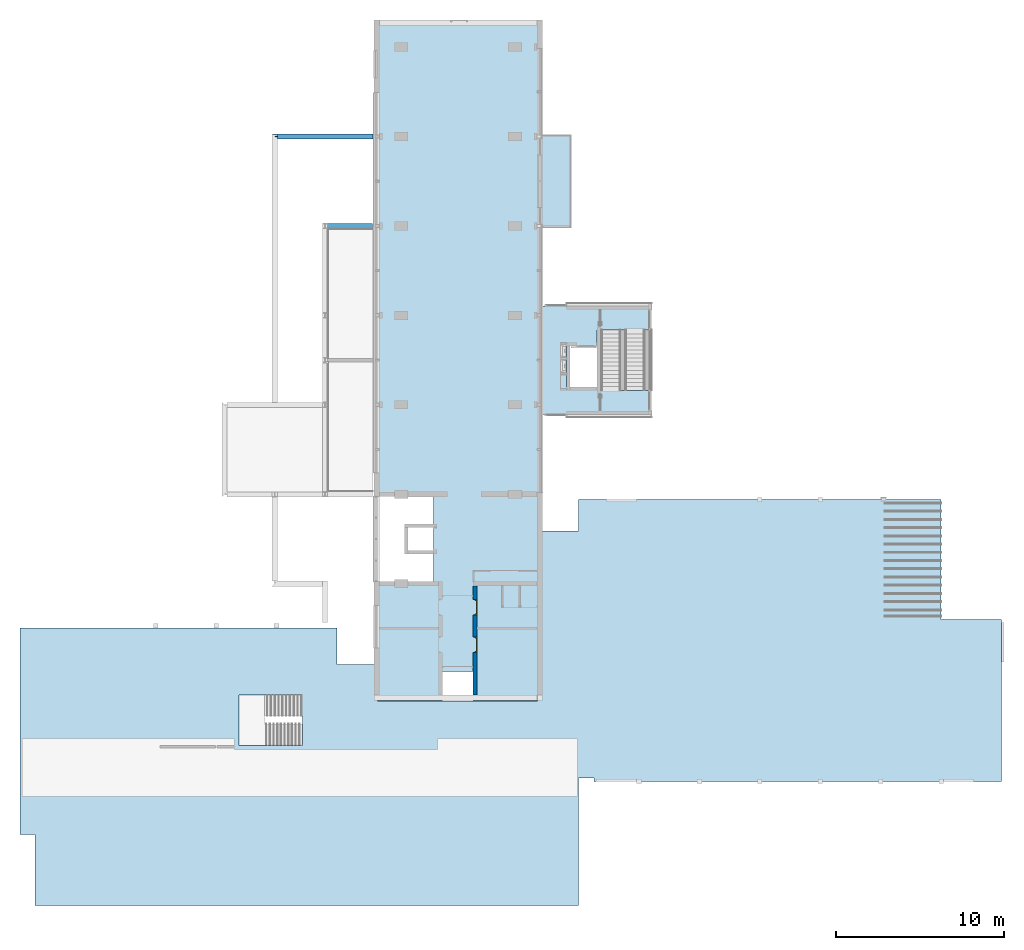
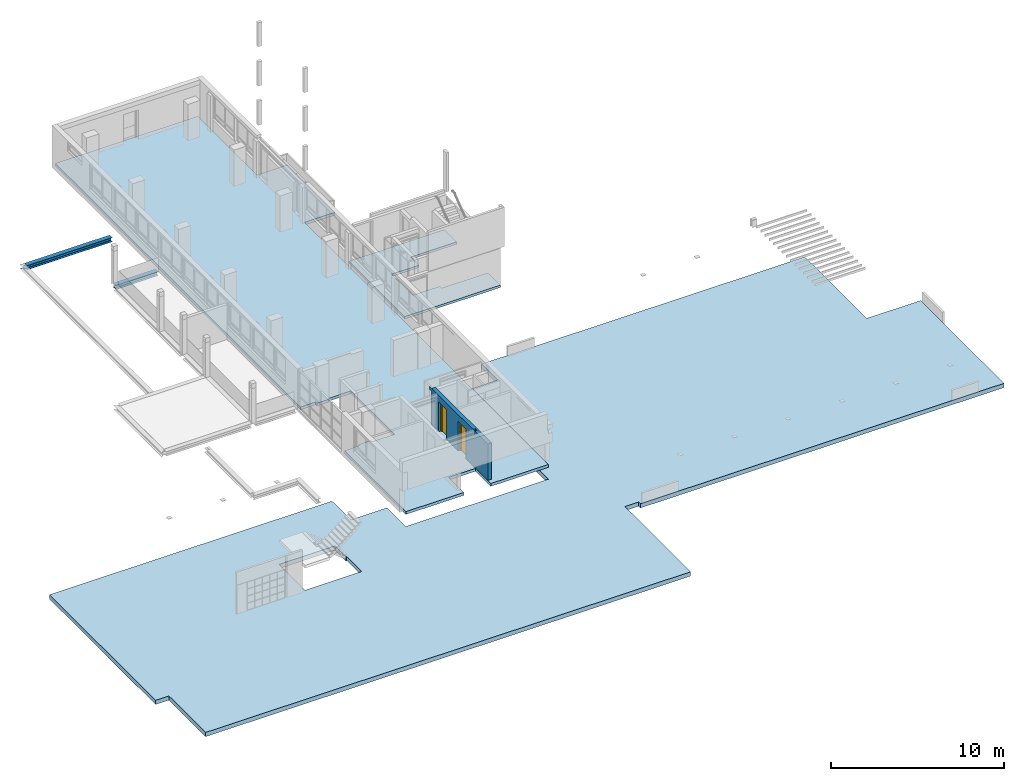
# One storey, part 8 of 22: 3 slabs, 2 beams, 2 doors, 1 wall, 2 openings.
"""IFC2X3 building model written with IfcOpenShell, lengths in millimetres."""

import ifcopenshell
import ifcopenshell.guid

model = None  # the IFC model being written
_history = None  # IfcOwnerHistory: only IFC2X3 demands one
_inside = {}  # id of a spatial element -> (the spatial element, [elements in it])
_under = {}  # id of a project, library or spatial element -> (it, [spatial elements below it])
_declared = {}  # id of a project -> (the project, [libraries it declares])
_typed = {}  # id of a type object -> (the type object, [elements of that type])
_made_of = {}  # id of a material, layer set ... -> (it, [elements and type objects made of it])


def new_model(schema):
    """Start an empty IFC model of exactly this schema.

    Asked for "IFC4X3", IfcOpenShell would pick the latest addendum, in which some entities
    have other attributes; the version numbers below select the first issue.
    IFC2X3 requires an IfcOwnerHistory on every rooted entity: one is made here for all.
    """
    global model, _history
    if schema == "IFC4X3":
        model = ifcopenshell.file(schema_version=(4, 3, 0, 0))
    else:
        model = ifcopenshell.file(schema=schema)
    _inside.clear()
    _under.clear()
    _declared.clear()
    _typed.clear()
    _made_of.clear()
    _history = None
    if model.schema == "IFC2X3":
        org = make("IfcOrganization", Name="unknown")
        user = make(
            "IfcPersonAndOrganization",
            ThePerson=make("IfcPerson", FamilyName="unknown"),
            TheOrganization=org,
        )
        app = make(
            "IfcApplication",
            ApplicationDeveloper=org,
            Version="unknown",
            ApplicationFullName="unknown",
            ApplicationIdentifier="unknown",
        )
        _history = make(
            "IfcOwnerHistory",
            OwningUser=user,
            OwningApplication=app,
            ChangeAction="ADDED",
            CreationDate=0,
        )
    return model


def make(cls, **values):
    """One entity of the class cls with the attributes given. An attribute that is None is left unset."""
    return model.create_entity(
        cls, **{name: value for name, value in values.items() if value is not None}
    )


def entity(cls, *values):
    """Any entity or typed value of the class cls, its attributes in the order of the schema. None: left unset."""
    e = model.create_entity(cls)
    for i, value in enumerate(values):
        if value is not None:
            e[i] = value
    return e


def rooted(cls, **values):
    """An entity with a GlobalId (a new one), such as an element, a storey or a relation."""
    return make(cls, GlobalId=ifcopenshell.guid.new(), OwnerHistory=_history, **values)


def si_unit(unit_type, name, prefix=None):
    """IfcSIUnit, for example si_unit("LENGTHUNIT", "METRE", prefix="MILLI")."""
    return make("IfcSIUnit", UnitType=unit_type, Prefix=prefix, Name=name)


def converted_unit(unit_type, name, factor, base, dimensions=None, offset=None):
    """IfcConversionBasedUnit, such as the inch: factor (a typed value) times the base unit."""
    return make(
        "IfcConversionBasedUnit"
        if offset is None
        else "IfcConversionBasedUnitWithOffset",
        ConversionOffset=offset,
        Dimensions=None
        if dimensions is None
        else entity("IfcDimensionalExponents", *dimensions),
        UnitType=unit_type,
        Name=name,
        ConversionFactor=make(
            "IfcMeasureWithUnit", ValueComponent=factor, UnitComponent=base
        ),
    )


def derived_unit(unit_type, elements):
    """IfcDerivedUnit: a product of units, each with its exponent."""
    return make(
        "IfcDerivedUnit",
        Elements=[
            make("IfcDerivedUnitElement", Unit=unit, Exponent=power)
            for unit, power in elements
        ],
        UnitType=unit_type,
    )


def money_unit(currency):
    """IfcMonetaryUnit."""
    return make("IfcMonetaryUnit", Currency=currency)


def assignment(units):
    """IfcUnitAssignment: the units of a project."""
    return None if units is None else make("IfcUnitAssignment", Units=units)


def point(xyz):
    """IfcCartesianPoint."""
    return None if xyz is None else make("IfcCartesianPoint", Coordinates=xyz)


def direction(xyz):
    """IfcDirection."""
    return None if xyz is None else make("IfcDirection", DirectionRatios=xyz)


def frame(location, z_axis=None, x_axis=None):
    """IfcAxis2Placement3D, a coordinate frame: its origin and axes. An axis left out is left unset."""
    return make(
        "IfcAxis2Placement3D",
        Location=point(location),
        Axis=direction(z_axis),
        RefDirection=direction(x_axis),
    )


def origin_with_axes():
    """The frame at (0, 0, 0) with the z axis (0, 0, 1) and the x axis (1, 0, 0) written out."""
    return frame((0.0, 0.0, 0.0), z_axis=(0.0, 0.0, 1.0), x_axis=(1.0, 0.0, 0.0))


def place(relative_to, where):
    """IfcLocalPlacement: puts the frame where relative to a parent placement (None: the world)."""
    return make(
        "IfcLocalPlacement", PlacementRelTo=relative_to, RelativePlacement=where
    )


def context(
    kind, dimensions, precision=None, world=None, true_north=None, identifier=None
):
    """IfcGeometricRepresentationContext, for example the 3D "Model" context."""
    return make(
        "IfcGeometricRepresentationContext",
        ContextIdentifier=identifier,
        ContextType=kind,
        CoordinateSpaceDimension=dimensions,
        Precision=precision,
        WorldCoordinateSystem=world,
        TrueNorth=true_north,
    )


def subcontext(parent, identifier, kind, view, scale=None):
    """IfcGeometricRepresentationSubContext, for example "Body" below "Model"."""
    return make(
        "IfcGeometricRepresentationSubContext",
        ContextIdentifier=identifier,
        ContextType=kind,
        ParentContext=parent,
        TargetScale=scale,
        TargetView=view,
    )


def project(units=None, contexts=None):
    """IfcProject with its units and contexts."""
    return rooted(
        "IfcProject",
        Name="project",
        RepresentationContexts=contexts,
        UnitsInContext=assignment(units),
    )


def spatial(cls, under=None, at=None, **own):
    """A site, building, storey or space (cls), placed at a placement, below another one or the project."""
    s = rooted(cls, ObjectPlacement=at, **own)
    if under is not None:
        _under.setdefault(under.id(), (under, []))[1].append(s)
    return s


def faces_of(points, faces, orient=None, outer=None):
    """IfcFace entities. A face is a list of loops; a loop is a list of indices into points, from 0.

    orient and outer hold one flag for each loop. By default every Orientation is true, the
    first loop of a face is its IfcFaceOuterBound and the others are IfcFaceBound.
    """
    made = []
    for i, loops in enumerate(faces):
        bounds = []
        for j, loop in enumerate(loops):
            is_outer = j == 0 if outer is None else outer[i][j]
            bounds.append(
                make(
                    "IfcFaceOuterBound" if is_outer else "IfcFaceBound",
                    Bound=make("IfcPolyLoop", Polygon=[points[k] for k in loop]),
                    Orientation=True if orient is None else orient[i][j],
                )
            )
        made.append(make("IfcFace", Bounds=bounds))
    return made


def faceted_brep(points, faces, orient=None, outer=None, voids=None):
    """IfcFacetedBrep: a solid bounded by flat faces; with voids (closed shells), ...WithVoids."""
    shared = [point(p) for p in points]
    hull = make("IfcClosedShell", CfsFaces=faces_of(shared, faces, orient, outer))
    if voids is None:
        return make("IfcFacetedBrep", Outer=hull)
    return make(
        "IfcFacetedBrepWithVoids",
        Outer=hull,
        Voids=[
            make(cls, CfsFaces=faces_of(shared, fs, o, b)) for cls, fs, o, b in voids
        ],
    )


def shape(context_of_items, identifier, shape_type, items):
    """IfcShapeRepresentation: the items that make up one representation, for example the "Body"."""
    return make(
        "IfcShapeRepresentation",
        ContextOfItems=context_of_items,
        RepresentationIdentifier=identifier,
        RepresentationType=shape_type,
        Items=items,
    )


def source(mapping_origin, context_of_items, identifier, shape_type, items):
    """IfcRepresentationMap: a shape defined once, which mapped items show again and again."""
    return make(
        "IfcRepresentationMap",
        MappingOrigin=mapping_origin,
        MappedRepresentation=shape(context_of_items, identifier, shape_type, items),
    )


def transform(
    local_origin,
    x_axis=None,
    y_axis=None,
    z_axis=None,
    scale=None,
    scale2=None,
    scale3=None,
    uniform=True,
):
    """IfcCartesianTransformationOperator3D, or its non-uniform kind. x_axis, y_axis, z_axis: its Axis1, 2, 3."""
    if uniform:
        return make(
            "IfcCartesianTransformationOperator3D",
            Axis1=direction(x_axis),
            Axis2=direction(y_axis),
            LocalOrigin=point(local_origin),
            Scale=scale,
            Axis3=direction(z_axis),
        )
    return make(
        "IfcCartesianTransformationOperator3DnonUniform",
        Axis1=direction(x_axis),
        Axis2=direction(y_axis),
        LocalOrigin=point(local_origin),
        Scale=scale,
        Axis3=direction(z_axis),
        Scale2=scale2,
        Scale3=scale3,
    )


def mapped(mapping_source, mapping_target):
    """IfcMappedItem: shows the shape of a source again, moved by a transform."""
    return make(
        "IfcMappedItem", MappingSource=mapping_source, MappingTarget=mapping_target
    )


def material(Name=None, Category=None):
    """IfcMaterial."""
    return make("IfcMaterial", Name=Name, Category=Category)


def made_of(thing, what):
    """Note that an element or type object is made of a material, layer set ...; save() writes the relation."""
    if what is not None:
        _made_of.setdefault(what.id(), (what, []))[1].append(thing)
    return thing


def type_object(cls, material=None, **own):
    """A type object (cls), such as IfcWallType, which elements share."""
    return made_of(rooted(cls, **own), material)


def type_shapes(of_type, sources):
    """Give a type object the sources (RepresentationMaps) that its elements show as mapped items."""
    of_type.RepresentationMaps = sources


def element(
    cls,
    number,
    at=None,
    inside=None,
    cuts=None,
    type_object=None,
    material=None,
    context=None,
    identifier="Body",
    shape_type=None,
    held_by="IfcProductDefinitionShape",
    body=None,
    shapes=None,
    **own,
):
    """One element of the class cls, such as IfcWall. Its Tag is "e" and its number.

    at: its placement. inside: the storey or other place that contains it. cuts: it is an
    opening in that element (IfcRelVoidsElement). A single representation is given by context,
    identifier, shape_type and body (its items); several are given by shapes. held_by: the class
    of the entity that holds the representations. save() writes the other relations.
    """
    e = rooted(cls, Tag="e%d" % number, ObjectPlacement=at, **own)
    if body is not None:
        shapes = [shape(context, identifier, shape_type, body)]
    if shapes is not None:
        e.Representation = make(held_by, Representations=shapes)
    if inside is not None:
        _inside.setdefault(inside.id(), (inside, []))[1].append(e)
    if cuts is not None:
        rooted(
            "IfcRelVoidsElement", RelatingBuildingElement=cuts, RelatedOpeningElement=e
        )
    if type_object is not None:
        _typed.setdefault(type_object.id(), (type_object, []))[1].append(e)
    return made_of(e, material)


def fill(opening, filler):
    """IfcRelFillsElement: the door or window that sits in an opening."""
    return rooted(
        "IfcRelFillsElement",
        RelatingOpeningElement=opening,
        RelatedBuildingElement=filler,
    )


def aggregate(whole, parts):
    """IfcRelAggregates: a whole, such as a stair, and the parts it consists of."""
    return rooted("IfcRelAggregates", RelatingObject=whole, RelatedObjects=parts)


def save(model, path):
    """Write the relations noted so far, then the file.

    IfcRelAggregates (storeys below a building ...), IfcRelContainedInSpatialStructure (elements
    in a storey), IfcRelDefinesByType, IfcRelAssociatesMaterial and IfcRelDeclares: one each for
    every whole, place, type object, material and project.
    """
    for whole, parts in _under.values():
        aggregate(whole, parts)
    for where, things in _inside.values():
        rooted(
            "IfcRelContainedInSpatialStructure",
            RelatedElements=things,
            RelatingStructure=where,
        )
    for kind, things in _typed.values():
        rooted("IfcRelDefinesByType", RelatedObjects=things, RelatingType=kind)
    for what, things in _made_of.values():
        rooted("IfcRelAssociatesMaterial", RelatedObjects=things, RelatingMaterial=what)
    for by, libraries in _declared.values():
        rooted("IfcRelDeclares", RelatingContext=by, RelatedDefinitions=libraries)
    model.write(path)


model = new_model("IFC2X3")

# Units and contexts
model_context = context("Model", 3, precision=0.01, world=origin_with_axes(), true_north=direction((0.0, 1.0)))
body_context = subcontext(model_context, "Body", "Model", "MODEL_VIEW")
ifc_project = project(units=[si_unit("LENGTHUNIT", "METRE", prefix="MILLI"), si_unit("AREAUNIT", "SQUARE_METRE"), si_unit("VOLUMEUNIT", "CUBIC_METRE"), converted_unit("PLANEANGLEUNIT", "DEGREE", entity("IfcPlaneAngleMeasure", 0.0174532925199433), si_unit("PLANEANGLEUNIT", "RADIAN"), dimensions=[0, 0, 0, 0, 0, 0, 0]), money_unit("EUR"), converted_unit("TIMEUNIT", "Year", entity("IfcTimeMeasure", 31557600.0), si_unit("TIMEUNIT", "SECOND"), dimensions=[0, 0, 1, 0, 0, 0, 0]), si_unit("MASSUNIT", "GRAM", prefix="KILO"), si_unit("THERMODYNAMICTEMPERATUREUNIT", "DEGREE_CELSIUS"), si_unit("LUMINOUSINTENSITYUNIT", "LUMEN"), si_unit("ENERGYUNIT", "JOULE", prefix="MEGA"), derived_unit("THERMALCONDUCTANCEUNIT", [(si_unit("POWERUNIT", "WATT"), 1), (si_unit("LENGTHUNIT", "METRE"), -1), (si_unit("THERMODYNAMICTEMPERATUREUNIT", "KELVIN"), -1)]), derived_unit("SPECIFICHEATCAPACITYUNIT", [(si_unit("ENERGYUNIT", "JOULE"), 1), (si_unit("MASSUNIT", "GRAM", prefix="KILO"), -1), (si_unit("THERMODYNAMICTEMPERATUREUNIT", "KELVIN"), -1)]), derived_unit("MASSDENSITYUNIT", [(si_unit("MASSUNIT", "GRAM", prefix="KILO"), 1), (si_unit("VOLUMEUNIT", "CUBIC_METRE"), -1)])], contexts=[model_context])

# Site, building, storey
site_placement = place(None, origin_with_axes())
site = spatial("IfcSite", under=ifc_project, at=site_placement, Name="Site", CompositionType="ELEMENT")
building_placement = place(site_placement, origin_with_axes())
building = spatial("IfcBuilding", under=site, at=building_placement, Name="Naam gebouw", CompositionType="ELEMENT")
storey_placement = place(building_placement, frame((0.0, 0.0, 8690.0), z_axis=(0.0, 0.0, 1.0), x_axis=(1.0, 0.0, 0.0)))
storey = spatial("IfcBuildingStorey", under=building, at=storey_placement, Name="2e verdieping V", CompositionType="ELEMENT", Elevation=8690.0)

# Beams
ifc_material_1 = material(Name="staal geanodiseerd RAL 7024")
beam_type = type_object("IfcBeamType", Name="NLRS_28_SF_LIB_balk HE_generiek_ISR:balk HE_gen_HEB300", PredefinedType="BEAM")
beam_1_placement = place(storey_placement, frame((20141.00000002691, 49275.91242629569, -990.0000000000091), z_axis=(0.0, 0.0, 1.0), x_axis=(0.0, 1.0, 0.0)))
element("IfcBeam", 1, at=beam_1_placement, inside=storey, type_object=beam_type, material=ifc_material_1, Name="NLRS_28_SF_LIB_balk HE_generiek_ISR:balk HE_gen_HEB300", ObjectType="BEAM", context=body_context, shape_type="Brep", body=[
    faceted_brep([(-9.11731409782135, 5837.252156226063, -117.499999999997), (-5.49999999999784, 5840.86947032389, -103.9999999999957), (5.49999999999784, 5840.869470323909, -103.9999999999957), (9.11731409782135, 5837.252156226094, -117.499999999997), (-9.11731409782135, 0.0, -117.499999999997), (-5.49999999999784, 0.0, -103.9999999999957), (-5.49999999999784, 5840.86947032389, 104.0000000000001), (5.49999999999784, 5840.869470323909, 104.0000000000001), (5.49999999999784, 0.0, -103.9999999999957), (9.11731409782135, 0.0, -117.499999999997), (-18.99999999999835, 5827.369470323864, -127.3826859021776), (18.99999999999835, 5827.369470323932, -127.3826859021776), (-18.99999999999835, 0.0, -127.3826859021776), (-149.9999999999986, 0.0, 150.000000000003), (-149.9999999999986, 0.0, 131.0000000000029), (-32.50000000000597, 0.0, 131.0000000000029), (-18.99999999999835, 0.0, 127.382685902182), (-9.11731409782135, 0.0, 117.5000000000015), (-5.49999999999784, 0.0, 104.0000000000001), (-32.50000000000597, 0.0, -130.9999999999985), (-149.9999999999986, 0.0, -130.9999999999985), (-149.9999999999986, 0.0, -149.9999999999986), (149.9999999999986, 0.0, -149.9999999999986), (149.9999999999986, 0.0, -130.9999999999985), (32.49999999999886, 0.0, -130.9999999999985), (18.99999999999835, 0.0, -127.3826859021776), (5.49999999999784, 0.0, 104.0000000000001), (9.11731409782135, 0.0, 117.5000000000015), (18.99999999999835, 0.0, 127.382685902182), (32.49999999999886, 0.0, 131.0000000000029), (149.9999999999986, 0.0, 131.0000000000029), (149.9999999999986, 0.0, 150.000000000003), (-9.11731409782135, 5837.252156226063, 117.5000000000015), (9.11731409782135, 5837.252156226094, 117.5000000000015), (-32.50000000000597, 5813.869470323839, -130.9999999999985), (32.49999999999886, 5813.869470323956, -130.9999999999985), (-32.50000000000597, 5696.369470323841, -130.9999999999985), (-149.9999999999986, 5696.369470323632, 150.000000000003), (-149.9999999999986, 5696.369470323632, 131.0000000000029), (-32.50000000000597, 5696.369470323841, 131.0000000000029), (-32.50000000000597, 5813.869470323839, 131.0000000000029), (-18.99999999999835, 5827.369470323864, 127.382685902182), (-149.9999999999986, 5696.369470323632, -130.9999999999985), (-149.9999999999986, 5696.369470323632, -149.9999999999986), (131.0000000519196, 5977.36947028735, -149.9999999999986), (149.9999999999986, 5996.36947028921, -149.9999999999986), (131.0000000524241, 5696.369470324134, -149.9999999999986), (149.9999999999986, 5996.36947028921, -130.9999999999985), (131.0000000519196, 5977.369470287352, -130.9999999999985), (131.0000000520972, 5878.869470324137, -130.9999999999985), (131.0000000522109, 5813.869470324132, -130.9999999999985), (131.0000000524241, 5696.369470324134, -130.9999999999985), (32.49999999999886, 5696.369470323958, -130.9999999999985), (18.99999999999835, 5827.369470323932, 127.382685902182), (32.49999999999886, 5813.869470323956, 131.0000000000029), (32.49999999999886, 5696.369470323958, 131.0000000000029), (131.0000000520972, 5878.869470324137, 131.0000000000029), (131.0000000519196, 5977.369470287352, 131.0000000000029), (149.9999999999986, 5996.36947028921, 131.0000000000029), (131.0000000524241, 5696.369470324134, 131.0000000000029), (131.0000000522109, 5813.869470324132, 131.0000000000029), (149.9999999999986, 5996.36947028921, 150.000000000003), (131.0000000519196, 5977.36947028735, 150.000000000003), (131.0000000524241, 5696.369470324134, 150.000000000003)], [[[0, 1, 2, 3]], [[1, 0, 4, 5]], [[1, 6, 7, 2]], [[3, 2, 8, 9]], [[10, 0, 3, 11]], [[0, 10, 12, 4]], [[13, 14, 15, 16, 17, 18, 5, 4, 12, 19, 20, 21, 22, 23, 24, 25, 9, 8, 26, 27, 28, 29, 30, 31]], [[6, 1, 5, 18]], [[6, 32, 33, 7]], [[2, 7, 26, 8]], [[11, 3, 9, 25]], [[34, 10, 11, 35]], [[12, 10, 34, 36, 19]], [[37, 38, 14, 13]], [[38, 39, 15, 14]], [[40, 41, 16, 15, 39]], [[41, 32, 17, 16]], [[32, 6, 18, 17]], [[36, 42, 20, 19]], [[42, 43, 21, 20]], [[44, 45, 22, 21, 43, 46]], [[45, 47, 23, 22]], [[48, 49, 50, 51, 52, 24, 23, 47]], [[35, 11, 25, 24, 52]], [[7, 33, 27, 26]], [[33, 53, 28, 27]], [[28, 53, 54, 55, 29]], [[56, 57, 58, 30, 29, 55, 59, 60]], [[58, 61, 31, 30]], [[61, 62, 63, 37, 13, 31]], [[32, 41, 53, 33]], [[36, 34, 35, 52]], [[39, 38, 37, 63, 59, 55]], [[53, 41, 40, 54]], [[39, 55, 54, 40]], [[43, 42, 36, 52, 51, 46]], [[47, 45, 44, 48]], [[49, 48, 44, 46, 51, 50]], [[57, 56, 60, 59, 63, 62]], [[57, 62, 61, 58]]]),
])
beam_2_placement = place(storey_placement, frame((20122.00000005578, 43945.91242622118, -150.0000000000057), z_axis=(0.0, 0.0, 1.0), x_axis=(0.0, 1.0, 0.0)))
element("IfcBeam", 2, at=beam_2_placement, inside=storey, type_object=beam_type, material=ifc_material_1, Name="NLRS_28_SF_LIB_balk HE_generiek_ISR:balk HE_gen_HEB300", ObjectType="BEAM", context=body_context, shape_type="Brep", body=[
    faceted_brep([(-149.9999999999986, 0.0, 150.0000000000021), (-149.9999999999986, 2830.000000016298, 150.0000000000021), (-149.9999999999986, 2830.000000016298, 131.000000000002), (-149.9999999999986, 0.0, 131.000000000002), (149.9999999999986, 0.0, 150.0000000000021), (149.9999999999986, 2830.000000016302, 150.0000000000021), (149.9999999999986, 2830.000000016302, 131.000000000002), (32.49999999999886, 2830.000000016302, 131.000000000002), (18.99999999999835, 2830.000000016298, 127.382685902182), (9.11731409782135, 2830.000000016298, 117.5000000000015), (5.49999999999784, 2830.000000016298, 104.000000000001), (5.49999999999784, 2830.000000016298, -103.9999999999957), (9.11731409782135, 2830.000000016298, -117.4999999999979), (18.99999999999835, 2830.000000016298, -127.3826859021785), (32.49999999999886, 2830.000000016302, -130.9999999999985), (149.9999999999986, 2830.000000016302, -130.9999999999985), (149.9999999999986, 2830.000000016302, -149.9999999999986), (-149.9999999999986, 2830.000000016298, -149.9999999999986), (-149.9999999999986, 2830.000000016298, -130.9999999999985), (-32.50000000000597, 2830.000000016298, -130.9999999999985), (-18.99999999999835, 2830.000000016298, -127.3826859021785), (-9.11731409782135, 2830.000000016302, -117.4999999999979), (-5.49999999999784, 2830.000000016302, -103.9999999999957), (-5.49999999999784, 2830.000000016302, 104.000000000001), (-9.11731409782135, 2830.000000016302, 117.5000000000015), (-18.99999999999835, 2830.000000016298, 127.382685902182), (-32.50000000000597, 2830.000000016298, 131.000000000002), (-32.50000000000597, 0.0, 131.000000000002), (-18.99999999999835, 0.0, 127.382685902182), (-9.11731409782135, 0.0, 117.5000000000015), (-5.49999999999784, 0.0, 104.000000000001), (-5.49999999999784, 0.0, -103.9999999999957), (-9.11731409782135, 0.0, -117.4999999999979), (-18.99999999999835, 0.0, -127.3826859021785), (-32.50000000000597, 0.0, -130.9999999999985), (-149.9999999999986, 0.0, -130.9999999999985), (-149.9999999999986, 0.0, -149.9999999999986), (149.9999999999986, 0.0, -149.9999999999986), (149.9999999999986, 0.0, -130.9999999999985), (32.49999999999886, 0.0, -130.9999999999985), (18.99999999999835, 0.0, -127.3826859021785), (9.11731409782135, 0.0, -117.4999999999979), (5.49999999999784, 0.0, -103.9999999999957), (5.49999999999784, 0.0, 104.000000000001), (9.11731409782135, 0.0, 117.5000000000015), (18.99999999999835, 0.0, 127.382685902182), (32.49999999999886, 0.0, 131.000000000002), (149.9999999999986, 0.0, 131.000000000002)], [[[0, 1, 2, 3]], [[4, 5, 1, 0]], [[2, 1, 5, 6, 7, 8, 9, 10, 11, 12, 13, 14, 15, 16, 17, 18, 19, 20, 21, 22, 23, 24, 25, 26]], [[3, 2, 26, 27]], [[4, 0, 3, 27, 28, 29, 30, 31, 32, 33, 34, 35, 36, 37, 38, 39, 40, 41, 42, 43, 44, 45, 46, 47]], [[47, 6, 5, 4]], [[46, 7, 6, 47]], [[45, 8, 7, 46]], [[44, 9, 8, 45]], [[43, 10, 9, 44]], [[42, 11, 10, 43]], [[41, 12, 11, 42]], [[40, 13, 12, 41]], [[39, 14, 13, 40]], [[38, 15, 14, 39]], [[37, 16, 15, 38]], [[36, 17, 16, 37]], [[35, 18, 17, 36]], [[34, 19, 18, 35]], [[33, 20, 19, 34]], [[32, 21, 20, 33]], [[31, 22, 21, 32]], [[30, 23, 22, 31]], [[29, 24, 23, 30]], [[28, 25, 24, 29]], [[27, 26, 25, 28]]]),
])

# Slabs
ifc_material_2 = material(Name="ALG - CONSTRUCTIEF VLOER")
slab_type_1 = type_object("IfcSlabType", Name="ALG Vloer 200", PredefinedType="NOTDEFINED")
slab_1_placement = place(storey_placement, frame((20420.0, 56215.91242510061, 0.0), z_axis=(0.0, 0.0, 1.0), x_axis=(1.0, 0.0, 0.0)))
element("IfcSlab", 3, at=slab_1_placement, inside=storey, type_object=slab_type_1, material=ifc_material_2, Name="_Vloer-x", PredefinedType="NOTDEFINED", context=body_context, shape_type="Brep", body=[
    faceted_brep([(0.0, 0.0, 0.0), (0.0, 0.0, -199.9999999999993), (0.0, -28385.00000004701, -199.9999999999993), (0.0, -28385.00000004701, 0.0), (9525.00000000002, 0.0, 0.0), (9525.00000000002, 0.0, -199.9999999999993), (9525.000000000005, -6840.000000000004, -199.9999999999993), (11554.99999999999, -6840.000000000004, -199.9999999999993), (11554.99999999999, -12370.0, -199.9999999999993), (9525.000000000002, -12370.0, -199.9999999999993), (9525.000000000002, -40564.99996924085, -199.9999999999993), (5675.999999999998, -40564.99996924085, -199.9999999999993), (5675.999999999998, -38805.00000000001, -199.9999999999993), (3875.999999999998, -38805.00000000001, -199.9999999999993), (3875.999999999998, -40564.99996924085, -199.9999999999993), (0.0, -40564.99996924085, -199.9999999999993), (0.0, -33466.44135188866, -199.9999999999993), (1007.570847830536, -33453.92183340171, -199.9999999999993), (1005.999999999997, -33327.5, -199.9999999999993), (1825.999999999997, -33327.5, -199.9999999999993), (1824.891840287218, -33460.83377664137, -199.9999999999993), (3329.999999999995, -33473.34298674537, -199.9999999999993), (3329.999999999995, -28434.99999977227, -199.9999999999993), (1826.000000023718, -28434.99999936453, -199.9999999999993), (1825.999999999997, -28522.5, -199.9999999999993), (1005.999999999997, -28522.5, -199.9999999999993), (1005.999999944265, -28384.99999963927, -199.9999999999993), (1005.999999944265, -28384.99999963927, 0.0), (1005.999999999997, -28522.5, 0.0), (1825.999999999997, -28522.5, 0.0), (1826.000000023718, -28434.99999936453, 0.0), (3329.999999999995, -28434.99999977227, 0.0), (3329.999999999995, -33473.34298674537, 0.0), (1824.891840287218, -33460.83377664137, 0.0), (1825.999999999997, -33327.5, 0.0), (1005.999999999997, -33327.5, 0.0), (1007.570847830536, -33453.92183340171, 0.0), (0.0, -33466.44135188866, 0.0), (0.0, -40564.99996924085, 0.0), (3875.999999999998, -40564.99996924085, 0.0), (3875.999999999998, -38805.00000000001, 0.0), (5675.999999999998, -38805.00000000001, 0.0), (5675.999999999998, -40564.99996924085, 0.0), (9525.000000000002, -40564.99996924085, 0.0), (9525.000000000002, -12370.0, 0.0), (11554.99999999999, -12370.0, 0.0), (11554.99999999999, -6840.000000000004, 0.0), (9525.000000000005, -6840.000000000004, 0.0)], [[[0, 1, 2, 3]], [[4, 5, 1, 0]], [[2, 1, 5, 6, 7, 8, 9, 10, 11, 12, 13, 14, 15, 16, 17, 18, 19, 20, 21, 22, 23, 24, 25, 26]], [[3, 2, 26, 27]], [[0, 3, 27, 28, 29, 30, 31, 32, 33, 34, 35, 36, 37, 38, 39, 40, 41, 42, 43, 44, 45, 46, 47, 4]], [[47, 6, 5, 4]], [[46, 7, 6, 47]], [[45, 8, 7, 46]], [[44, 9, 8, 45]], [[43, 10, 9, 44]], [[42, 11, 10, 43]], [[41, 12, 11, 42]], [[40, 13, 12, 41]], [[39, 14, 13, 40]], [[38, 15, 14, 39]], [[37, 16, 15, 38]], [[36, 17, 16, 37]], [[35, 18, 17, 36]], [[34, 19, 18, 35]], [[33, 20, 19, 34]], [[32, 21, 20, 33]], [[31, 22, 21, 32]], [[30, 23, 22, 31]], [[29, 24, 23, 30]], [[28, 25, 24, 29]], [[27, 26, 25, 28]]]),
])
ifc_material_3 = material(Name="beton")
slab_type_2 = type_object("IfcSlabType", Name="Floor:23_3B_beton 170mm", PredefinedType="FLOOR")
slab_2_placement = place(storey_placement, frame((36580.00000003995, 32711.91242634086, 0.0), z_axis=(0.0, 0.0, 1.0), x_axis=(1.0, 0.0, 0.0)))
element("IfcSlab", 4, at=slab_2_placement, inside=storey, type_object=slab_type_2, material=ifc_material_3, Name="Floor:23_3B_beton 170mm", PredefinedType="FLOOR", context=body_context, shape_type="Brep", body=[
    faceted_brep([(0.0, 0.0, 0.0), (0.0, 0.0, -169.9999999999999), (0.0, 1433.999999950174, -169.9999999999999), (0.0, 1433.999999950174, 0.0), (-6388.999999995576, 0.0, 0.0), (-6388.999999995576, 0.0, -169.9999999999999), (-6389.00000002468, 6467.999999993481, -169.9999999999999), (0.0, 6467.999999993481, -169.9999999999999), (0.0, 5033.999999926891, -169.9999999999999), (-3082.000000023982, 5034.000000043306, -169.9999999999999), (-3081.999999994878, 4087.999999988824, -169.9999999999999), (-4896.000000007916, 4087.999999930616, -169.9999999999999), (-4896.000000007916, 1647.999999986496, -169.9999999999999), (-3081.999999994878, 1647.999999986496, -169.9999999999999), (-3082.000000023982, 1434.000000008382, -169.9999999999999), (-3082.000000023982, 1434.000000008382, 0.0), (-3081.999999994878, 1647.999999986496, 0.0), (-4896.000000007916, 1647.999999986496, 0.0), (-4896.000000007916, 4087.999999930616, 0.0), (-3081.999999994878, 4087.999999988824, 0.0), (-3082.000000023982, 5034.000000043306, 0.0), (0.0, 5033.999999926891, 0.0), (0.0, 6467.999999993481, 0.0), (-6389.00000002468, 6467.999999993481, 0.0)], [[[0, 1, 2, 3]], [[4, 5, 1, 0]], [[2, 1, 5, 6, 7, 8, 9, 10, 11, 12, 13, 14]], [[3, 2, 14, 15]], [[4, 0, 3, 15, 16, 17, 18, 19, 20, 21, 22, 23]], [[23, 6, 5, 4]], [[22, 7, 6, 23]], [[21, 8, 7, 22]], [[20, 9, 8, 21]], [[19, 10, 9, 20]], [[18, 11, 10, 19]], [[17, 12, 11, 18]], [[16, 13, 12, 17]], [[15, 14, 13, 16]]]),
])
slab_type_3 = type_object("IfcSlabType", Name="ALG - CONSTRUCTIEF VLOER 300", PredefinedType="NOTDEFINED")
slab_3_placement = place(storey_placement, frame((-884.4276394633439, 19995.91242510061, -1039.999999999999), z_axis=(0.0, 0.0, 1.0), x_axis=(1.0, 0.0, 0.0)))
element("IfcSlab", 5, at=slab_3_placement, inside=storey, type_object=slab_type_3, material=ifc_material_2, Name="_Vloer-x", PredefinedType="NOTDEFINED", context=body_context, shape_type="Brep", body=[
    faceted_brep([(0.0, 0.0, 0.0), (0.0, 0.0, -299.9999999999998), (0.0, -12300.32318198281, -299.9999999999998), (0.0, -12300.32318198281, 0.0), (18884.42592628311, 0.0, 0.0), (18884.42592628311, 0.0, -299.9999999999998), (18884.42592628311, -2171.161198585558, -299.9999999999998), (21304.42763946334, -2171.161198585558, -299.9999999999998), (21304.42763946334, -4344.999969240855, -299.9999999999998), (30829.42763946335, -4344.999969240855, -299.9999999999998), (30829.42763946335, 5785.50210980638, -299.9999999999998), (33284.42763946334, 5785.50210980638, -299.9999999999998), (33284.42763946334, 7656.086052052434, -299.9999999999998), (54884.42763946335, 7655.549236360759, -299.9999999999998), (54884.42763946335, 495.5175088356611, -299.9999999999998), (58484.42763946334, 495.5175088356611, -299.9999999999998), (58484.42763946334, -9151.000000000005, -299.9999999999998), (34194.77529018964, -9151.000000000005, -299.9999999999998), (34194.77529018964, -8949.482491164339, -299.9999999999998), (33284.42763946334, -8949.482491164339, -299.9999999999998), (33284.42763946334, -16550.25345339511, -299.9999999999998), (884.4276394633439, -16550.25345339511, -299.9999999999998), (884.4276394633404, -12300.32318198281, -299.9999999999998), (16766.92815794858, -3999.992165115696, -299.9999999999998), (13039.92815794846, -3999.992165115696, -299.9999999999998), (13039.92815794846, -7001.304385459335, -299.9999999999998), (16824.92815794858, -7001.304385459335, -299.9999999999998), (16824.92815794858, -5250.043056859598, -299.9999999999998), (16766.92815794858, -5250.043056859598, -299.9999999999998), (884.4276394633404, -12300.32318198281, 0.0), (884.4276394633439, -16550.25345339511, 0.0), (33284.42763946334, -16550.25345339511, 0.0), (33284.42763946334, -8949.482491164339, 0.0), (34194.77529018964, -8949.482491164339, 0.0), (34194.77529018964, -9151.000000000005, 0.0), (58484.42763946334, -9151.000000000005, 0.0), (58484.42763946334, 495.5175088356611, 0.0), (54884.42763946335, 495.5175088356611, 0.0), (54884.42763946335, 7655.549236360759, 0.0), (33284.42763946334, 7656.086052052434, 0.0), (33284.42763946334, 5785.50210980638, 0.0), (30829.42763946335, 5785.50210980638, 0.0), (30829.42763946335, -4344.999969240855, 0.0), (21304.42763946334, -4344.999969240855, 0.0), (21304.42763946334, -2171.161198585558, 0.0), (18884.42592628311, -2171.161198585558, 0.0), (13039.92815794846, -7001.304385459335, 0.0), (13039.92815794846, -3999.992165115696, 0.0), (16766.92815794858, -3999.992165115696, 0.0), (16766.92815794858, -5250.043056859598, 0.0), (16824.92815794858, -5250.043056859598, 0.0), (16824.92815794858, -7001.304385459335, 0.0)], [[[0, 1, 2, 3]], [[4, 5, 1, 0]], [[2, 1, 5, 6, 7, 8, 9, 10, 11, 12, 13, 14, 15, 16, 17, 18, 19, 20, 21, 22], [23, 24, 25, 26, 27, 28]], [[3, 2, 22, 29]], [[4, 0, 3, 29, 30, 31, 32, 33, 34, 35, 36, 37, 38, 39, 40, 41, 42, 43, 44, 45], [46, 47, 48, 49, 50, 51]], [[45, 6, 5, 4]], [[44, 7, 6, 45]], [[43, 8, 7, 44]], [[42, 9, 8, 43]], [[41, 10, 9, 42]], [[40, 11, 10, 41]], [[39, 12, 11, 40]], [[38, 13, 12, 39]], [[37, 14, 13, 38]], [[36, 15, 14, 37]], [[35, 16, 15, 36]], [[34, 17, 16, 35]], [[33, 18, 17, 34]], [[32, 19, 18, 33]], [[31, 20, 19, 32]], [[30, 21, 20, 31]], [[29, 22, 21, 30]], [[47, 24, 23, 48]], [[46, 25, 24, 47]], [[51, 26, 25, 46]], [[50, 27, 26, 51]], [[49, 28, 27, 50]], [[48, 23, 28, 49]]]),
])

# Wall, openings, doors
ifc_material_4 = material(Name="ALG - CONSTRUCTIEF")
wall_type = type_object("IfcWallType", Name="ALG - CONSTRUCTIEF 250", PredefinedType="NOTDEFINED")
wall_placement = place(storey_placement, frame((26346.0, 16000.91242510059, 0.0), z_axis=(0.0, 0.0, 1.0), x_axis=(0.0, 1.0, 0.0)))
wall = element("IfcWall", 6, at=wall_placement, inside=storey, type_object=wall_type, material=ifc_material_4, Name="_Wand-x", context=body_context, shape_type="Brep", body=[
    faceted_brep([(2535.644729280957, 0.0, 0.0), (2535.644729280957, 0.0, 2100.0), (3465.644729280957, 0.0, 2100.0), (3465.644729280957, 0.0, 0.0), (4758.700757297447, 0.0, 0.0), (4758.700757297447, 0.0, 2100.0), (5688.700757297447, 0.0, 2100.0), (5688.700757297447, 0.0, 0.0), (6500.000000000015, 0.0, 0.0), (6500.000000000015, 0.0, 2570.000000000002), (0.0, 0.0, 2570.000000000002), (0.0, 0.0, 2270.000000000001), (0.0, 0.0, 0.0), (2535.644729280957, 249.9999999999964, 0.0), (2535.644729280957, 250.0, 2100.0), (3465.644729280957, 250.0, 2100.0), (3465.644729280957, 249.9999999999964, 0.0), (4758.700757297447, 249.9999999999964, 0.0), (4758.700757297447, 250.0, 2100.0), (5688.700757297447, 250.0, 2100.0), (5688.700757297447, 250.0, 0.0), (6500.000000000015, 250.0, 0.0), (6500.000000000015, 250.0, 2360.000000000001), (6500.000000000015, 246.0000000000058, 2360.000000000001), (6500.000000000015, 246.0000000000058, 2570.000000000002), (6750.000000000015, 246.0000000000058, 2570.000000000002), (6750.000000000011, 250.0, 2570.000000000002), (0.0, 250.0, 2570.000000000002), (1715.000000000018, 231.0000000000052, 2570.000000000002), (1715.000000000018, 81.00000000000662, 2570.000000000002), (1515.000000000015, 81.00000000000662, 2570.000000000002), (1515.000000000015, 231.0000000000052, 2570.000000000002), (0.0, 249.9999999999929, 0.0), (0.0, 249.9999999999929, 1500.0), (6750.000000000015, 250.0, 2360.000000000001), (6750.000000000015, 246.0000000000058, 2360.000000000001), (1715.000000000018, 231.0000000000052, 2360.000000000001), (1715.000000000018, 81.00000000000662, 2360.000000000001), (1515.000000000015, 81.00000000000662, 2360.000000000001), (1515.000000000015, 231.0000000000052, 2360.000000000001)], [[[0, 1, 2, 3, 4, 5, 6, 7, 8, 9, 10, 11, 12]], [[1, 0, 13, 14]], [[2, 1, 14, 15]], [[3, 2, 15, 16]], [[3, 16, 17, 4]], [[4, 17, 18, 5]], [[5, 18, 19, 6]], [[6, 19, 20, 7]], [[20, 21, 8, 7]], [[8, 21, 22, 23, 24, 9]], [[24, 25, 26, 27, 10, 9], [28, 29, 30, 31]], [[32, 12, 11, 10, 27, 33]], [[13, 0, 12, 32]], [[14, 13, 32, 33, 27, 26, 34, 22, 21, 20, 19, 18, 17, 16, 15]], [[34, 35, 23, 22]], [[23, 35, 25, 24]], [[26, 25, 35, 34]], [[28, 36, 37, 29]], [[29, 37, 38, 30]], [[30, 38, 39, 31]], [[31, 39, 36, 28]], [[39, 38, 37, 36]]]),
])
opening_1_placement = place(wall_placement, frame((3000.644729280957, 0.0, 0.0), z_axis=(0.0, 0.0, 1.0), x_axis=(1.0, 0.0, 0.0)))
opening_1 = element("IfcOpeningElement", 7, at=opening_1_placement, cuts=wall, Name="_Merk-x", context=body_context, shape_type="Brep", body=[
    faceted_brep([(464.9999999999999, 251.0000000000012, 2100.0), (464.9999999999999, 251.0000000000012, 0.0), (-464.9999999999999, 251.0000000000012, 0.0), (-464.9999999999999, 251.0000000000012, 2100.0), (464.9999999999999, -1.000000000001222, 2100.0), (464.9999999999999, -1.000000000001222, 0.0), (-464.9999999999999, -1.000000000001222, 0.0), (-464.9999999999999, -1.000000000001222, 2100.0)], [[[0, 1, 2, 3]], [[4, 5, 1, 0]], [[5, 6, 2, 1]], [[6, 7, 3, 2]], [[7, 4, 0, 3]], [[6, 5, 4, 7]]]),
])
opening_2_placement = place(wall_placement, frame((5223.700757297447, 0.0, 0.0), z_axis=(0.0, 0.0, 1.0), x_axis=(1.0, 0.0, 0.0)))
opening_2 = element("IfcOpeningElement", 8, at=opening_2_placement, cuts=wall, Name="_Merk-x", context=body_context, shape_type="Brep", body=[
    faceted_brep([(464.9999999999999, 251.0000000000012, 2100.0), (464.9999999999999, 251.0000000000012, 0.0), (-464.9999999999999, 251.0000000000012, 0.0), (-464.9999999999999, 251.0000000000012, 2100.0), (464.9999999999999, -1.000000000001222, 2100.0), (464.9999999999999, -1.000000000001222, 0.0), (-464.9999999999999, -1.000000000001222, 0.0), (-464.9999999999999, -1.000000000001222, 2100.0)], [[[0, 1, 2, 3]], [[4, 5, 1, 0]], [[5, 6, 2, 1]], [[6, 7, 3, 2]], [[7, 4, 0, 3]], [[6, 5, 4, 7]]]),
])
door_style_1 = type_object("IfcDoorStyle", Name="D1 27", ConstructionType="NOTDEFINED", OperationType="SINGLE_SWING_LEFT", ParameterTakesPrecedence=False, Sizeable=False)
shared_shape_1 = source(origin_with_axes(), body_context, "Body", "Brep", [
    faceted_brep([(398.0, -40.0, 0.0), (398.0, -114.0, 0.0), (398.0, -114.0, 2033.0), (398.0, -39.99999999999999, 2033.0), (415.0000000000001, -40.0, 0.0), (415.0000000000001, 0.0, 0.0), (465.0000000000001, 0.0, 0.0), (465.0000000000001, -114.0, 0.0), (465.0000000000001, -114.0, 2033.0), (415.0000000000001, -40.0, 2033.0), (465.0000000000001, 0.0, 2033.0), (415.0000000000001, 0.0, 2033.0)], [[[0, 1, 2, 3]], [[4, 5, 6, 7, 1, 0]], [[1, 7, 8, 2]], [[9, 3, 2, 8, 10, 11]], [[9, 4, 0, 3]], [[11, 5, 4, 9]], [[11, 10, 6, 5]], [[6, 10, 8, 7]]]),
    faceted_brep([(-415.0000000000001, -40.0, 2033.0), (-415.0000000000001, 0.0, 2033.0), (-465.0000000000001, 0.0, 2033.0), (-465.0000000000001, -114.0, 2033.0), (-398.0, -114.0, 2033.0), (-398.0, -39.99999999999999, 2033.0), (-415.0000000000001, -40.0, 0.0), (-415.0000000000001, 0.0, 0.0), (-465.0000000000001, 0.0, 0.0), (-465.0000000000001, -114.0, 0.0), (-398.0, -114.0, 0.0), (-398.0, -40.0, 0.0)], [[[0, 1, 2, 3, 4, 5]], [[0, 6, 7, 1]], [[7, 8, 2, 1]], [[2, 8, 9, 3]], [[3, 9, 10, 4]], [[5, 4, 10, 11]], [[5, 11, 6, 0]], [[6, 11, 10, 9, 8, 7]]]),
    faceted_brep([(415.0000000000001, 0.0, 2050.0), (-415.0000000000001, 0.0, 2050.0), (-415.0000000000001, 0.0, 2033.0), (-465.0, 0.0, 2033.0), (-465.0, 0.0, 2100.0), (465.0, 0.0, 2100.0), (465.0, 0.0, 2033.0), (415.0000000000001, 0.0, 2033.0), (415.0000000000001, -40.0, 2050.0), (-415.0000000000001, -40.0, 2050.0), (-415.0000000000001, -40.0, 2033.0), (-398.0, -39.99999999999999, 2033.0), (-398.0, -114.0, 2033.0), (-465.0, -114.0, 2033.0), (-465.0, -114.0, 2100.0), (465.0, -114.0, 2100.0), (465.0, -114.0, 2033.0), (415.0000000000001, -40.0, 2033.0), (398.0, -114.0, 2033.0), (398.0, -39.99999999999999, 2033.0)], [[[0, 1, 2, 3, 4, 5, 6, 7]], [[0, 8, 9, 1]], [[1, 9, 10, 2]], [[10, 11, 12, 13, 3, 2]], [[4, 3, 13, 14]], [[5, 4, 14, 15]], [[6, 5, 15, 16]], [[17, 7, 6, 16, 18, 19]], [[7, 17, 8, 0]], [[10, 9, 8, 17, 19, 11]], [[19, 18, 12, 11]], [[12, 18, 16, 15, 14, 13]]]),
    faceted_brep([(-415.0000000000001, 0.0, 0.0), (415.0000000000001, 0.0, 0.0), (415.0000000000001, -40.0, 0.0), (-415.0000000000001, -40.0, 0.0), (-415.0000000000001, 0.0, 2050.0), (415.0000000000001, 0.0, 2050.0), (415.0000000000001, -40.00000000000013, 2050.0), (-415.0000000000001, -40.00000000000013, 2050.0)], [[[0, 1, 2, 3]], [[0, 4, 5, 1]], [[1, 5, 6, 2]], [[3, 2, 6, 7]], [[4, 0, 3, 7]], [[5, 4, 7, 6]]]),
])
type_shapes(door_style_1, [shared_shape_1])
door_1_placement = place(opening_1_placement, frame((464.9999999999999, 0.0, 0.0), z_axis=(0.0, 0.0, 1.0), x_axis=(-1.0, 0.0, 0.0)))
door_1 = element("IfcDoor", 9, at=door_1_placement, inside=storey, type_object=door_style_1, Name="_Merk-x", ObjectType="DOOR", OverallHeight=2100.0, OverallWidth=930.0, context=body_context, shape_type="MappedRepresentation", body=[
    mapped(shared_shape_1, transform((464.9999999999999, 0.0, 0.0))),
])
fill(opening_1, door_1)
door_style_2 = type_object("IfcDoorStyle", Name="D1 27", ConstructionType="NOTDEFINED", OperationType="SINGLE_SWING_RIGHT", ParameterTakesPrecedence=False, Sizeable=False)
shared_shape_2 = source(origin_with_axes(), body_context, "Body", "Brep", [
    faceted_brep([(-398.0, -40.0, 0.0), (-398.0, -39.99999999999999, 2033.0), (-398.0, -114.0, 2033.0), (-398.0, -114.0, 0.0), (-415.0000000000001, -40.0, 2033.0), (-415.0000000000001, -40.0, 0.0), (-415.0000000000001, 0.0, 2033.0), (-465.0000000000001, 0.0, 2033.0), (-465.0000000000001, -114.0, 2033.0), (-465.0000000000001, -114.0, 0.0), (-465.0000000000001, 0.0, 0.0), (-415.0000000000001, 0.0, 0.0)], [[[0, 1, 2, 3]], [[4, 1, 0, 5]], [[4, 6, 7, 8, 2, 1]], [[3, 2, 8, 9]], [[5, 0, 3, 9, 10, 11]], [[6, 4, 5, 11]], [[6, 11, 10, 7]], [[10, 9, 8, 7]]]),
    faceted_brep([(415.0000000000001, -40.0, 2033.0), (398.0, -39.99999999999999, 2033.0), (398.0, -114.0, 2033.0), (465.0000000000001, -114.0, 2033.0), (465.0000000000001, 0.0, 2033.0), (415.0000000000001, 0.0, 2033.0), (415.0000000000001, -40.0, 0.0), (398.0, -40.0, 0.0), (398.0, -114.0, 0.0), (465.0000000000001, -114.0, 0.0), (465.0000000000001, 0.0, 0.0), (415.0000000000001, 0.0, 0.0)], [[[0, 1, 2, 3, 4, 5]], [[1, 0, 6, 7]], [[1, 7, 8, 2]], [[3, 2, 8, 9]], [[4, 3, 9, 10]], [[11, 5, 4, 10]], [[0, 5, 11, 6]], [[6, 11, 10, 9, 8, 7]]]),
    faceted_brep([(-415.0000000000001, 0.0, 2050.0), (-415.0000000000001, 0.0, 2033.0), (-465.0, 0.0, 2033.0), (-465.0, 0.0, 2100.0), (465.0, 0.0, 2100.0), (465.0, 0.0, 2033.0), (415.0000000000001, 0.0, 2033.0), (415.0000000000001, 0.0, 2050.0), (-415.0000000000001, -40.0, 2050.0), (-415.0000000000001, -40.0, 2033.0), (-398.0, -39.99999999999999, 2033.0), (-398.0, -114.0, 2033.0), (-465.0, -114.0, 2033.0), (-465.0, -114.0, 2100.0), (465.0, -114.0, 2100.0), (465.0, -114.0, 2033.0), (415.0000000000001, -40.0, 2033.0), (398.0, -114.0, 2033.0), (398.0, -39.99999999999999, 2033.0), (415.0000000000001, -40.0, 2050.0)], [[[0, 1, 2, 3, 4, 5, 6, 7]], [[1, 0, 8, 9]], [[9, 10, 11, 12, 2, 1]], [[2, 12, 13, 3]], [[3, 13, 14, 4]], [[4, 14, 15, 5]], [[16, 6, 5, 15, 17, 18]], [[7, 6, 16, 19]], [[0, 7, 19, 8]], [[16, 18, 10, 9, 8, 19]], [[10, 18, 17, 11]], [[17, 15, 14, 13, 12, 11]]]),
    faceted_brep([(415.0000000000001, 0.0, 0.0), (415.0000000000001, -40.0, 0.0), (-415.0000000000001, -40.0, 0.0), (-415.0000000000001, 0.0, 0.0), (415.0000000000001, 0.0, 2050.0), (415.0000000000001, -40.00000000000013, 2050.0), (-415.0000000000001, -40.00000000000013, 2050.0), (-415.0000000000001, 0.0, 2050.0)], [[[0, 1, 2, 3]], [[4, 5, 1, 0]], [[1, 5, 6, 2]], [[3, 2, 6, 7]], [[0, 3, 7, 4]], [[7, 6, 5, 4]]]),
])
type_shapes(door_style_2, [shared_shape_2])
door_2_placement = place(opening_2_placement, frame((464.9999999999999, 0.0, 0.0), z_axis=(0.0, 0.0, 1.0), x_axis=(-1.0, 0.0, 0.0)))
door_2 = element("IfcDoor", 10, at=door_2_placement, inside=storey, type_object=door_style_2, Name="_Merk-x", ObjectType="DOOR", OverallHeight=2100.0, OverallWidth=930.0, context=body_context, shape_type="MappedRepresentation", body=[
    mapped(shared_shape_2, transform((464.9999999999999, 0.0, 0.0))),
])
fill(opening_2, door_2)

save(model, "model.ifc")
